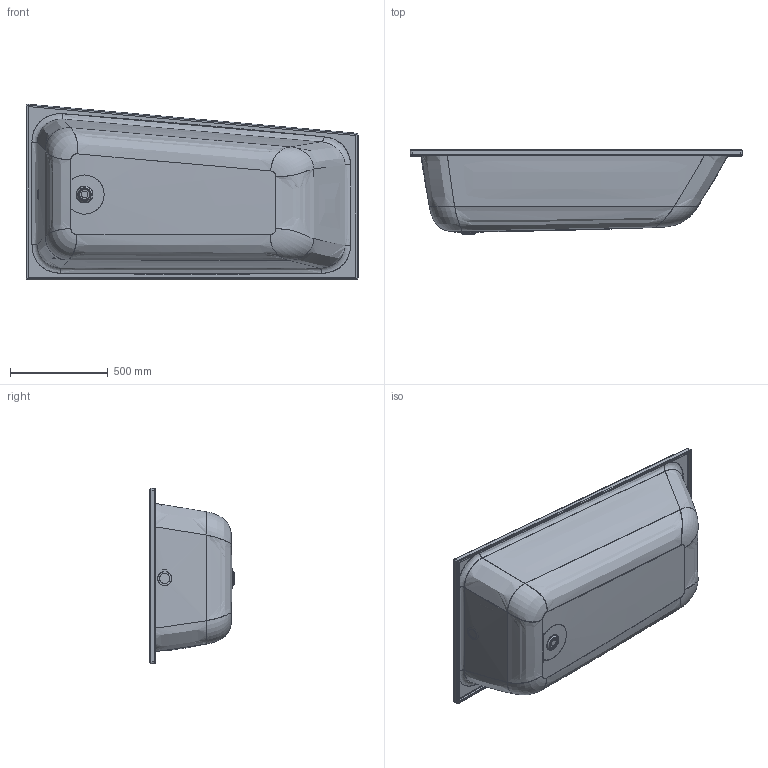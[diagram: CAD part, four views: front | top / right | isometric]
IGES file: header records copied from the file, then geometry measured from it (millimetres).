
Start section: Write IGES format                                    datakit 2008 (c)
Global section: file name: Unknown; native system: DATAKIT Converter; preprocessor: Unknown; author: Unknown; organization: Unknown; date: 950613.180003; units: millimetre
Bounding box: 1699 x 430 x 897.99 mm (x, y, z)
Surface area: 5476078.8 mm2 (no closed solid volume)
Topology: 0 solids, 0 shells, 149 faces, 1102 edges, 1096 vertices
Faces by surface type: revolution 70, bspline 59, offset 20
